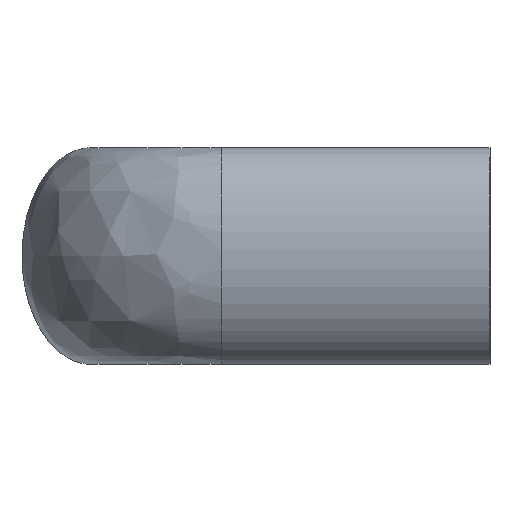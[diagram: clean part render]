
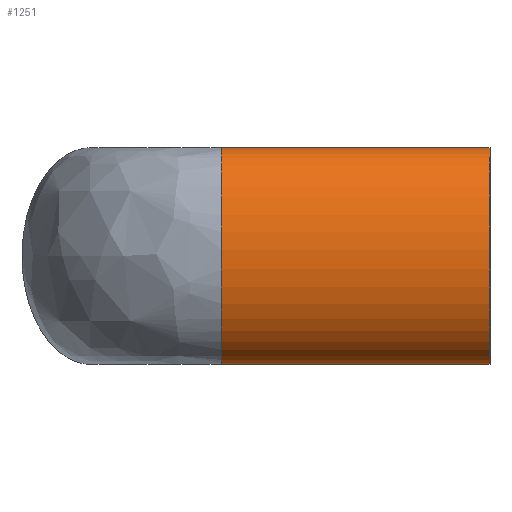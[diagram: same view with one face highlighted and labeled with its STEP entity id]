
A CAD part, left-side view. The second image highlights one B-rep face of the part: STEP entity #1251.
In plain terms, the highlighted free-form (B-spline) face has degree [3, 1] with [4, 2] control points.
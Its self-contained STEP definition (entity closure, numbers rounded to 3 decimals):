
#17 = ORIENTED_EDGE ( 'NONE', *, *, #1272, .F. ) ;
#127 = ORIENTED_EDGE ( 'NONE', *, *, #1270, .T. ) ;
#156 = ORIENTED_EDGE ( 'NONE', *, *, #1267, .F. ) ;
#163 = ORIENTED_EDGE ( 'NONE', *, *, #1266, .T. ) ;
#233 = EDGE_LOOP ( 'NONE', ( #17, #163, #127, #156 ) ) ;
#290 = CARTESIAN_POINT ( 'NONE',  ( -64., 31., 12.5 ) ) ;
#293 = CARTESIAN_POINT ( 'NONE',  ( -64., 31., -12.5 ) ) ;
#296 = CARTESIAN_POINT ( 'NONE',  ( -64., 0., 12.5 ) ) ;
#385 = CARTESIAN_POINT ( 'NONE',  ( -64., 31., 12.5 ) ) ;
#386 = CARTESIAN_POINT ( 'NONE',  ( -64., 0., 12.5 ) ) ;
#387 = CARTESIAN_POINT ( 'NONE',  ( -80., 31., 12.5 ) ) ;
#388 = CARTESIAN_POINT ( 'NONE',  ( -80., 0., 12.5 ) ) ;
#389 = CARTESIAN_POINT ( 'NONE',  ( -80., 31., -12.5 ) ) ;
#390 = CARTESIAN_POINT ( 'NONE',  ( -80., 0., -12.5 ) ) ;
#391 = CARTESIAN_POINT ( 'NONE',  ( -64., 31., -12.5 ) ) ;
#392 = CARTESIAN_POINT ( 'NONE',  ( -64., 0., -12.5 ) ) ;
#478 = CARTESIAN_POINT ( 'NONE',  ( -64., 31., 12.5 ) ) ;
#479 = CARTESIAN_POINT ( 'NONE',  ( -80., 31., 12.5 ) ) ;
#480 = CARTESIAN_POINT ( 'NONE',  ( -80., 31., -12.5 ) ) ;
#481 = CARTESIAN_POINT ( 'NONE',  ( -64., 31., -12.5 ) ) ;
#482 = CARTESIAN_POINT ( 'NONE',  ( -64., 0., 12.5 ) ) ;
#483 = CARTESIAN_POINT ( 'NONE',  ( -80., 0., 12.5 ) ) ;
#484 = CARTESIAN_POINT ( 'NONE',  ( -80., 0., -12.5 ) ) ;
#485 = CARTESIAN_POINT ( 'NONE',  ( -64., 0., -12.5 ) ) ;
#785 = VECTOR ( 'NONE', #1127, 1000. ) ;
#787 = VECTOR ( 'NONE', #1121, 1000. ) ;
#835 = VERTEX_POINT ( 'NONE', #1405 ) ;
#859 =( BOUNDED_SURFACE ( )  B_SPLINE_SURFACE ( 3, 1, ( 
 ( #385, #386 ),
 ( #387, #388 ),
 ( #389, #390 ),
 ( #391, #392 ) ),
 .UNSPECIFIED., .F., .F., .T. ) 
 B_SPLINE_SURFACE_WITH_KNOTS ( ( 4, 4 ),
 ( 2, 2 ),
 ( 0., 1. ),
 ( 0., 1. ),
 .UNSPECIFIED. ) 
 GEOMETRIC_REPRESENTATION_ITEM ( )  RATIONAL_B_SPLINE_SURFACE ( (
 ( 1., 1.),
 ( 0.333, 0.333),
 ( 0.333, 0.333),
 ( 1., 1.) ) ) 
 REPRESENTATION_ITEM ( '' )  SURFACE ( )  );
#927 = LINE ( 'NONE', #1126, #785 ) ;
#928 = LINE ( 'NONE', #1120, #787 ) ;
#937 = FACE_OUTER_BOUND ( 'NONE', #233, .T. ) ;
#976 = VERTEX_POINT ( 'NONE', #290 ) ;
#979 = VERTEX_POINT ( 'NONE', #293 ) ;
#982 = VERTEX_POINT ( 'NONE', #296 ) ;
#1120 = CARTESIAN_POINT ( 'NONE',  ( -64., 31., -12.5 ) ) ;
#1121 = DIRECTION ( 'NONE',  ( 0., -1., 0. ) ) ;
#1126 = CARTESIAN_POINT ( 'NONE',  ( -64., 31., 12.5 ) ) ;
#1127 = DIRECTION ( 'NONE',  ( 0., -1., 0. ) ) ;
#1251 = ADVANCED_FACE ( 'NONE', ( #937 ), #859, .T. ) ;
#1266 = EDGE_CURVE ( 'NONE', #976, #979, #1388, .T. ) ;
#1267 = EDGE_CURVE ( 'NONE', #982, #835, #1395, .T. ) ;
#1270 = EDGE_CURVE ( 'NONE', #979, #835, #928, .T. ) ;
#1272 = EDGE_CURVE ( 'NONE', #976, #982, #927, .T. ) ;
#1388 =( BOUNDED_CURVE ( )  B_SPLINE_CURVE ( 3, ( #478, #479, #480, #481 ),
 .UNSPECIFIED., .F., .T. ) 
 B_SPLINE_CURVE_WITH_KNOTS ( ( 4, 4 ),
 ( 3.142, 6.283 ),
 .UNSPECIFIED. ) 
 CURVE ( )  GEOMETRIC_REPRESENTATION_ITEM ( )  RATIONAL_B_SPLINE_CURVE ( ( 1., 0.333, 0.333, 1. ) ) 
 REPRESENTATION_ITEM ( '' )  );
#1395 =( BOUNDED_CURVE ( )  B_SPLINE_CURVE ( 3, ( #482, #483, #484, #485 ),
 .UNSPECIFIED., .F., .T. ) 
 B_SPLINE_CURVE_WITH_KNOTS ( ( 4, 4 ),
 ( 3.142, 6.283 ),
 .UNSPECIFIED. ) 
 CURVE ( )  GEOMETRIC_REPRESENTATION_ITEM ( )  RATIONAL_B_SPLINE_CURVE ( ( 1., 0.333, 0.333, 1. ) ) 
 REPRESENTATION_ITEM ( '' )  );
#1405 = CARTESIAN_POINT ( 'NONE',  ( -64., 0., -12.5 ) ) ;
